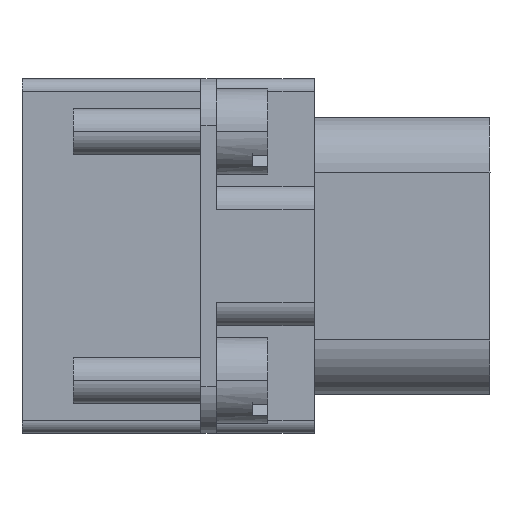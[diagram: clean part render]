
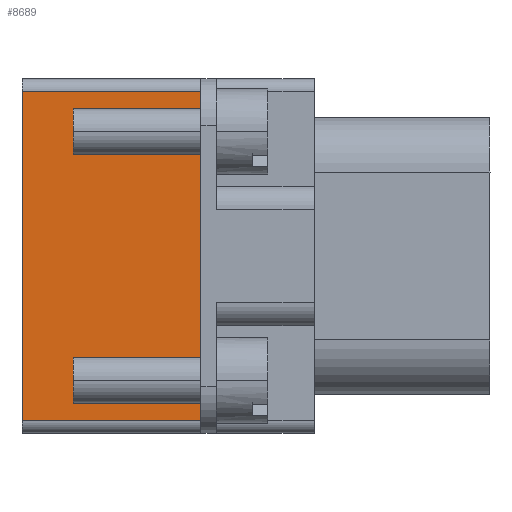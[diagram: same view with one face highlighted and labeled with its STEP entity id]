
A CAD part, left-side view. The second image highlights one B-rep face of the part: STEP entity #8689.
In plain terms, the highlighted planar face has unit normal (-1, 0, 0).
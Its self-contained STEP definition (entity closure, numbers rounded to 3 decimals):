
#1669 = CARTESIAN_POINT ( 'NONE',  ( -29.6, 0., 10.6 ) ) ;
#1670 = DIRECTION ( 'NONE',  ( 0., 0., 1. ) ) ;
#1671 = VECTOR ( 'NONE', #1670, 1000. ) ;
#1672 = CARTESIAN_POINT ( 'NONE',  ( -29.6, 0., -12.07 ) ) ;
#1673 = LINE ( 'NONE', #1672, #1671 ) ;
#1674 = CARTESIAN_POINT ( 'NONE',  ( -29.6, 11.5, -10.6 ) ) ;
#1675 = CARTESIAN_POINT ( 'NONE',  ( -29.6, 0., -10.6 ) ) ;
#1676 = DIRECTION ( 'NONE',  ( 0., 1., 0. ) ) ;
#1677 = VECTOR ( 'NONE', #1676, 1000. ) ;
#1678 = CARTESIAN_POINT ( 'NONE',  ( -29.6, -1., -10.6 ) ) ;
#1679 = LINE ( 'NONE', #1678, #1677 ) ;
#1724 = CARTESIAN_POINT ( 'NONE',  ( -29.6, 11.5, 10.6 ) ) ;
#1725 = DIRECTION ( 'NONE',  ( 0., -1., 0. ) ) ;
#1726 = VECTOR ( 'NONE', #1725, 1000. ) ;
#1727 = CARTESIAN_POINT ( 'NONE',  ( -29.6, -1., 10.6 ) ) ;
#1728 = LINE ( 'NONE', #1727, #1726 ) ;
#2164 = FACE_OUTER_BOUND ( 'NONE', #8690, .T. ) ;
#2181 = PLANE ( 'NONE',  #2239 ) ;
#2231 = DIRECTION ( 'NONE',  ( 0., 0., 1. ) ) ;
#2232 = VECTOR ( 'NONE', #2231, 1000. ) ;
#2233 = CARTESIAN_POINT ( 'NONE',  ( -29.6, 11.5, 11.97 ) ) ;
#2234 = LINE ( 'NONE', #2233, #2232 ) ;
#2236 = DIRECTION ( 'NONE',  ( 0., 0., 1. ) ) ;
#2237 = DIRECTION ( 'NONE',  ( -1., 0., 0. ) ) ;
#2238 = CARTESIAN_POINT ( 'NONE',  ( -29.6, -1., -10.8 ) ) ;
#2239 = AXIS2_PLACEMENT_3D ( 'NONE', #2238, #2237, #2236 ) ;
#8528 = EDGE_CURVE ( 'NONE', #8529, #8530, #1679, .T. ) ;
#8529 = VERTEX_POINT ( 'NONE', #1675 ) ;
#8530 = VERTEX_POINT ( 'NONE', #1674 ) ;
#8531 = ORIENTED_EDGE ( 'NONE', *, *, #8532, .T. ) ;
#8532 = EDGE_CURVE ( 'NONE', #8529, #8533, #1673, .T. ) ;
#8533 = VERTEX_POINT ( 'NONE', #1669 ) ;
#8534 = ORIENTED_EDGE ( 'NONE', *, *, #8535, .F. ) ;
#8535 = EDGE_CURVE ( 'NONE', #8536, #8533, #1728, .T. ) ;
#8536 = VERTEX_POINT ( 'NONE', #1724 ) ;
#8689 = ADVANCED_FACE ( 'F107', ( #2164 ), #2181, .T. ) ;
#8690 = EDGE_LOOP ( 'NONE', ( #8691, #8531, #8534, #8692 ) ) ;
#8691 = ORIENTED_EDGE ( 'NONE', *, *, #8528, .F. ) ;
#8692 = ORIENTED_EDGE ( 'NONE', *, *, #8693, .F. ) ;
#8693 = EDGE_CURVE ( 'NONE', #8530, #8536, #2234, .T. ) ;
